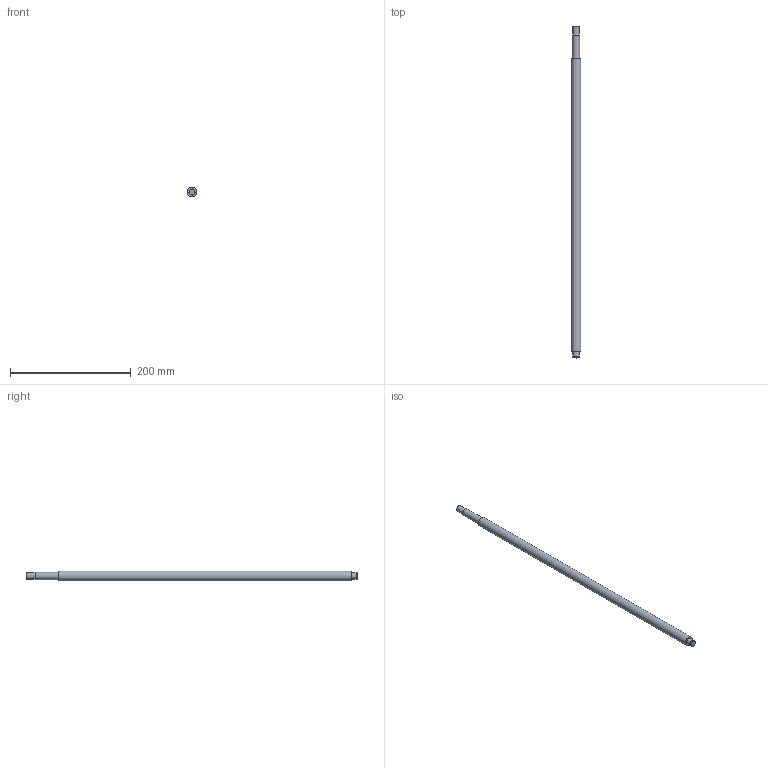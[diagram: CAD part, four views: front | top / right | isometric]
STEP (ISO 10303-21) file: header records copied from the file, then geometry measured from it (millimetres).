
FILE_DESCRIPTION(/* description */ (''),/* implementation_level */ '2;1');
FILE_NAME(/* name */ 'C:\Users\David\Desktop\stepFiles\Profilfuehrung\KUS1605x550.stp',/* time_stamp */ '2018-06-24T15:08:45+02:00',/* author */ ('David'),/* organization */ (''),/* preprocessor_version */ 'ST-DEVELOPER v17',/* originating_system */ 'Autodesk Inventor 2019',/* authorisation */ '');
FILE_SCHEMA (('AUTOMOTIVE_DESIGN { 1 0 10303 214 3 1 1 }'));
Length unit declared in the file: millimetre
Products named in the file (1): SFU1605xvariabel
Bounding box: 16 x 550 x 16 mm (x, y, z)
Volume: 103953.2 mm3; surface area: 27059.8 mm2
Topology: 1 solids, 1 shells, 15 faces, 34 edges, 26 vertices
Faces by surface type: plane 7, cylinder 6, cone 2
Full cylindrical faces by diameter (mm): 9.6 x1, 10 x3, 12 x1, 16 x1
Entity records: 493 total; most frequent: DIRECTION 92, CARTESIAN_POINT 76, ORIENTED_EDGE 68, AXIS2_PLACEMENT_3D 42, EDGE_CURVE 34, CIRCLE 26, VERTEX_POINT 26, EDGE_LOOP 20
